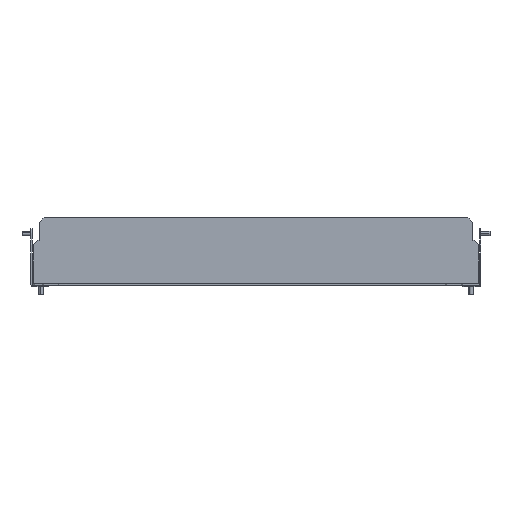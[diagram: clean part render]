
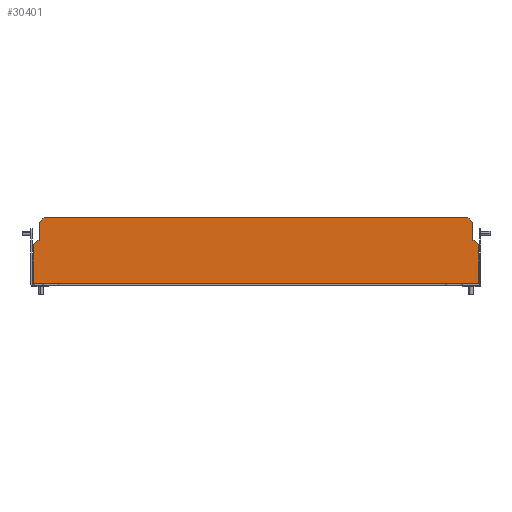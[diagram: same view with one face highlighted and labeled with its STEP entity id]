
A CAD part, front view. The second image highlights one B-rep face of the part: STEP entity #30401.
In plain terms, the highlighted planar face has unit normal (0, -1, 0).
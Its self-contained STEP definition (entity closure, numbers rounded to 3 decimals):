
#29276=CARTESIAN_POINT(' ',(247.5,-1.5,0.6));
#29277=VERTEX_POINT(' ',#29276);
#29291=CARTESIAN_POINT(' ',(247.5,-1.5,0.6));
#29296=DIRECTION(' ',(-1.,0.,0.));
#29301=VECTOR(' ',#29296,1.);
#29306=LINE('',#29291,#29301);
#29311=CARTESIAN_POINT(' ',(-247.5,-1.5,0.6));
#29312=VERTEX_POINT(' ',#29311);
#29316=EDGE_CURVE(' ',#29277,#29312,#29306,.T.);
#29496=CARTESIAN_POINT(' ',(-247.5,-1.5,0.6));
#29501=DIRECTION(' ',(0.,0.,1.));
#29506=VECTOR(' ',#29501,1.);
#29511=LINE('',#29496,#29506);
#29516=CARTESIAN_POINT(' ',(-247.5,-1.5,43.5));
#29517=VERTEX_POINT(' ',#29516);
#29521=EDGE_CURVE(' ',#29312,#29517,#29511,.T.);
#30011=DIRECTION(' ',(0.,-1.,0.));
#30016=CARTESIAN_POINT(' ',(-247.5,-1.5,73.5));
#30021=DIRECTION(' ',(0.,0.,-1.));
#30026=AXIS2_PLACEMENT_3D(' ',#30016,#30011,#30021);
#30031=PLANE('NONE',#30026);
#30036=CARTESIAN_POINT(' ',(247.5,-1.5,43.5));
#30041=DIRECTION(' ',(0.,0.,-1.));
#30046=VECTOR(' ',#30041,1.);
#30051=LINE('',#30036,#30046);
#30056=CARTESIAN_POINT(' ',(247.5,-1.5,43.5));
#30057=VERTEX_POINT(' ',#30056);
#30061=EDGE_CURVE(' ',#30057,#29277,#30051,.T.);
#30066=ORIENTED_EDGE(' ',*,*,#30061,.F.);
#30071=CARTESIAN_POINT(' ',(247.5,-1.5,43.5));
#30076=DIRECTION(' ',(-0.707,0.,0.707));
#30081=VECTOR(' ',#30076,1.);
#30086=LINE('',#30071,#30081);
#30091=CARTESIAN_POINT(' ',(242.5,-1.5,48.5));
#30092=VERTEX_POINT(' ',#30091);
#30096=EDGE_CURVE(' ',#30057,#30092,#30086,.T.);
#30101=ORIENTED_EDGE(' ',*,*,#30096,.T.);
#30106=CARTESIAN_POINT(' ',(240.5,-1.5,48.5));
#30111=DIRECTION(' ',(1.,0.,0.));
#30116=VECTOR(' ',#30111,1.);
#30121=LINE('',#30106,#30116);
#30126=CARTESIAN_POINT(' ',(240.5,-1.5,48.5));
#30127=VERTEX_POINT(' ',#30126);
#30131=EDGE_CURVE(' ',#30127,#30092,#30121,.T.);
#30136=ORIENTED_EDGE(' ',*,*,#30131,.F.);
#30141=CARTESIAN_POINT(' ',(240.5,-1.5,48.5));
#30146=DIRECTION(' ',(0.,0.,1.));
#30151=VECTOR(' ',#30146,1.);
#30156=LINE('',#30141,#30151);
#30161=CARTESIAN_POINT(' ',(240.5,-1.5,68.5));
#30162=VERTEX_POINT(' ',#30161);
#30166=EDGE_CURVE(' ',#30127,#30162,#30156,.T.);
#30171=ORIENTED_EDGE(' ',*,*,#30166,.T.);
#30176=CARTESIAN_POINT(' ',(240.5,-1.5,68.5));
#30181=DIRECTION(' ',(-0.707,0.,0.707));
#30186=VECTOR(' ',#30181,1.);
#30191=LINE('',#30176,#30186);
#30196=CARTESIAN_POINT(' ',(235.5,-1.5,73.5));
#30197=VERTEX_POINT(' ',#30196);
#30201=EDGE_CURVE(' ',#30162,#30197,#30191,.T.);
#30206=ORIENTED_EDGE(' ',*,*,#30201,.T.);
#30211=CARTESIAN_POINT(' ',(235.5,-1.5,73.5));
#30216=DIRECTION(' ',(-1.,0.,0.));
#30221=VECTOR(' ',#30216,1.);
#30226=LINE('',#30211,#30221);
#30231=CARTESIAN_POINT(' ',(-235.5,-1.5,73.5));
#30232=VERTEX_POINT(' ',#30231);
#30236=EDGE_CURVE(' ',#30197,#30232,#30226,.T.);
#30241=ORIENTED_EDGE(' ',*,*,#30236,.T.);
#30246=CARTESIAN_POINT(' ',(-235.5,-1.5,73.5));
#30251=DIRECTION(' ',(-0.707,0.,-0.707));
#30256=VECTOR(' ',#30251,1.);
#30261=LINE('',#30246,#30256);
#30266=CARTESIAN_POINT(' ',(-240.5,-1.5,68.5));
#30267=VERTEX_POINT(' ',#30266);
#30271=EDGE_CURVE(' ',#30232,#30267,#30261,.T.);
#30276=ORIENTED_EDGE(' ',*,*,#30271,.T.);
#30281=CARTESIAN_POINT(' ',(-240.5,-1.5,48.5));
#30286=DIRECTION(' ',(0.,0.,1.));
#30291=VECTOR(' ',#30286,1.);
#30296=LINE('',#30281,#30291);
#30301=CARTESIAN_POINT(' ',(-240.5,-1.5,48.5));
#30302=VERTEX_POINT(' ',#30301);
#30306=EDGE_CURVE(' ',#30302,#30267,#30296,.T.);
#30311=ORIENTED_EDGE(' ',*,*,#30306,.F.);
#30316=CARTESIAN_POINT(' ',(-240.5,-1.5,48.5));
#30321=DIRECTION(' ',(-1.,0.,0.));
#30326=VECTOR(' ',#30321,1.);
#30331=LINE('',#30316,#30326);
#30336=CARTESIAN_POINT(' ',(-242.5,-1.5,48.5));
#30337=VERTEX_POINT(' ',#30336);
#30341=EDGE_CURVE(' ',#30302,#30337,#30331,.T.);
#30346=ORIENTED_EDGE(' ',*,*,#30341,.T.);
#30351=CARTESIAN_POINT(' ',(-242.5,-1.5,48.5));
#30356=DIRECTION(' ',(-0.707,0.,-0.707));
#30361=VECTOR(' ',#30356,1.);
#30366=LINE('',#30351,#30361);
#30371=EDGE_CURVE(' ',#30337,#29517,#30366,.T.);
#30376=ORIENTED_EDGE(' ',*,*,#30371,.T.);
#30381=ORIENTED_EDGE(' ',*,*,#29521,.F.);
#30386=ORIENTED_EDGE(' ',*,*,#29316,.F.);
#30391=EDGE_LOOP(' ',(#30066,#30101,#30136,#30171,#30206,#30241,#30276,#30311,#30346,#30376,#30381,#30386));
#30396=FACE_OUTER_BOUND(' ',#30391,.T.);
#30401=ADVANCED_FACE('NONE',(#30396),#30031,.T.);
